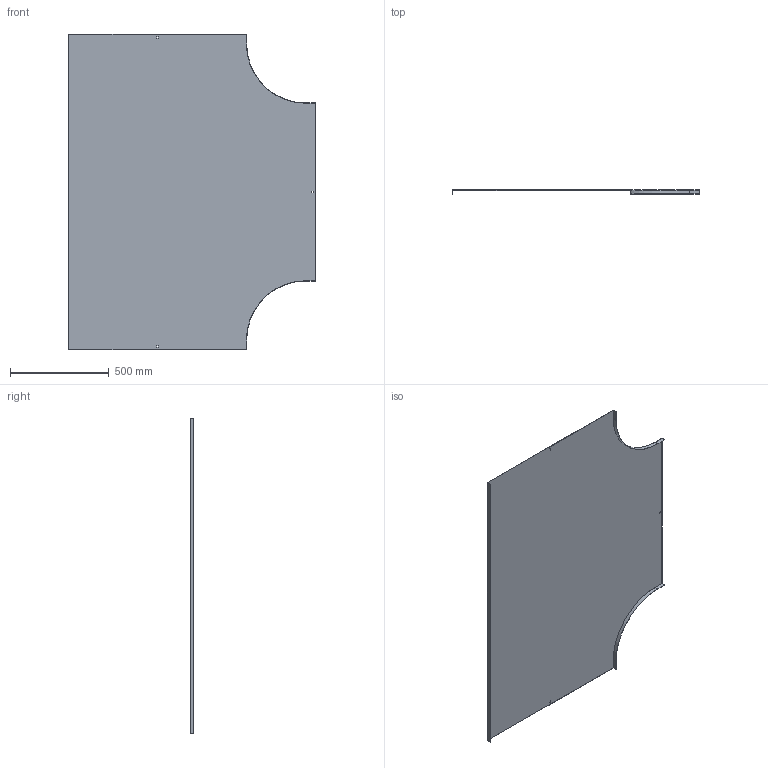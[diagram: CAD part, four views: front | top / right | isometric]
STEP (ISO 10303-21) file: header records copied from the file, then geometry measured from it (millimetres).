
FILE_DESCRIPTION (( 'STEP AP214' ), '1' );
FILE_NAME ('B2_15N3R900.step', '2025-02-21T12:07:25', ( '' ), ( '' ), 'SwSTEP 2.0', 'SolidWorks 2023', '' );
FILE_SCHEMA (( 'AUTOMOTIVE_DESIGN' ));
Length unit declared in the file: millimetre
Products named in the file (1): B2_15N3R900
Bounding box: 1251.5 x 20 x 1600 mm (x, y, z)
Volume: 2772382.9 mm3; surface area: 3704986.7 mm2
Topology: 1 solids, 1 shells, 34 faces, 96 edges, 64 vertices
Faces by surface type: plane 30, cylinder 4
Entity records: 1123 total; most frequent: CARTESIAN_POINT 195, ORIENTED_EDGE 192, DIRECTION 174, EDGE_CURVE 96, VECTOR 88, LINE 88, VERTEX_POINT 64, AXIS2_PLACEMENT_3D 43
